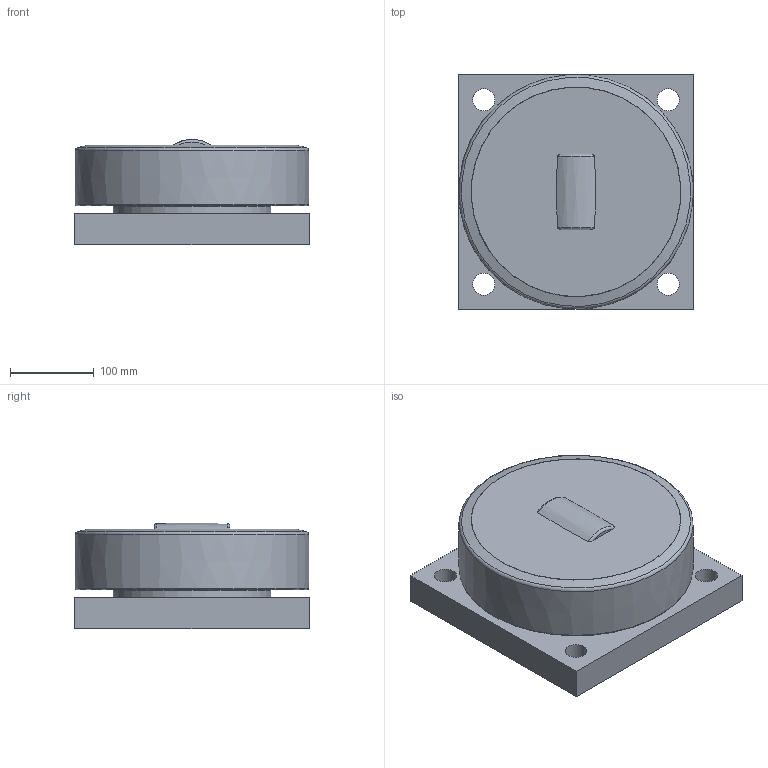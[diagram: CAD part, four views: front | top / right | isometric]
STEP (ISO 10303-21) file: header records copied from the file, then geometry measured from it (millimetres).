
FILE_DESCRIPTION((''),'2;1');
FILE_NAME('K:\Daten\KOMPONENTEN 2D + 3D\KOMPONENTEN Step-Files für extern\_ALFATEC_Mammutrollen und Profile\MR .0610 mit Platte\ALFATEC_MR 280.0610_BQ1000.stp','2013-10-01T13:41:34',('hipp'),(''),'Autodesk Inventor 2013','Autodesk Inventor 2013','');
FILE_SCHEMA(('CONFIG_CONTROL_DESIGN'));
Length unit declared in the file: millimetre
Products named in the file (1): MR 280.0610_BQ1000_Shrinkwrap_1
Bounding box: 280 x 280 x 126.3 mm (x, y, z)
Volume: 7354614.8 mm3; surface area: 350673.6 mm2
Topology: 1 solids, 1 shells, 31 faces, 69 edges, 45 vertices
Faces by surface type: plane 12, cylinder 7, torus 5, cone 5, bspline 2
Full cylindrical faces by diameter (mm): 26.211 x4, 138 x1, 150 x1, 188 x1
Entity records: 900 total; most frequent: CARTESIAN_POINT 208, DIRECTION 130, ORIENTED_EDGE 96, EDGE_LOOP 60, AXIS2_PLACEMENT_3D 58, EDGE_CURVE 48, VERTEX_POINT 40, FACE_OUTER_BOUND 31
